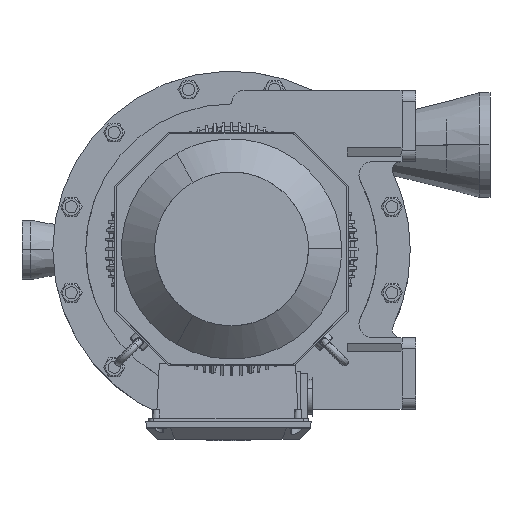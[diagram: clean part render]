
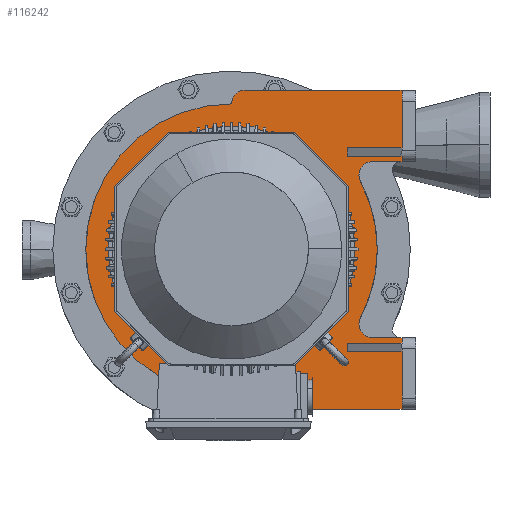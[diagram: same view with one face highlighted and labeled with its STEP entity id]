
A CAD part, top view. The second image highlights one B-rep face of the part: STEP entity #116242.
In plain terms, the highlighted planar face has unit normal (0, 0, 1).
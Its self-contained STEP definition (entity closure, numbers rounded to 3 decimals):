
#115315=CARTESIAN_POINT('',(231.661,135.,273.0));
#115316=VERTEX_POINT('',#115315);
#115332=CARTESIAN_POINT('',(256.661,160.,273.0));
#115333=VERTEX_POINT('',#115332);
#115340=CARTESIAN_POINT('',(256.661,135.,273.0));
#115341=DIRECTION('',(0.0,0.0,1.0));
#115342=DIRECTION('',(1.0,0.0,0.0));
#115343=AXIS2_PLACEMENT_3D('',#115340,#115341,#115342);
#115344=CIRCLE('',#115343,25.0);
#115345=EDGE_CURVE('',#115333,#115316,#115344,.T.);
#115355=CARTESIAN_POINT('',(265.0,0.,273.0));
#115356=VERTEX_POINT('',#115355);
#115365=CARTESIAN_POINT('',(234.535,-123.362,273.0));
#115366=VERTEX_POINT('',#115365);
#115367=CARTESIAN_POINT('',(0.0,0.0,273.0));
#115368=DIRECTION('',(0.0,0.0,-1.0));
#115369=DIRECTION('',(1.0,0.0,0.0));
#115370=AXIS2_PLACEMENT_3D('',#115367,#115368,#115369);
#115371=CIRCLE('',#115370,265.0);
#115372=EDGE_CURVE('',#115356,#115366,#115371,.T.);
#115416=CARTESIAN_POINT('',(231.661,-135.,273.0));
#115417=VERTEX_POINT('',#115416);
#115432=CARTESIAN_POINT('',(256.661,-135.,273.0));
#115433=DIRECTION('',(0.0,0.0,1.0));
#115434=DIRECTION('',(1.0,0.0,0.0));
#115435=AXIS2_PLACEMENT_3D('',#115432,#115433,#115434);
#115436=CIRCLE('',#115435,25.0);
#115437=EDGE_CURVE('',#115366,#115417,#115436,.T.);
#115449=CARTESIAN_POINT('',(-265.0,0.,273.0));
#115450=VERTEX_POINT('',#115449);
#115517=CARTESIAN_POINT('',(0.,-265.0,273.0));
#115518=VERTEX_POINT('',#115517);
#115525=CARTESIAN_POINT('',(0.0,0.0,273.0));
#115526=DIRECTION('',(0.0,0.0,-1.0));
#115527=DIRECTION('',(1.0,0.0,0.0));
#115528=AXIS2_PLACEMENT_3D('',#115525,#115526,#115527);
#115529=CIRCLE('',#115528,265.0);
#115530=EDGE_CURVE('',#115518,#115450,#115529,.T.);
#115542=CARTESIAN_POINT('',(150.0,0.0,273.0));
#115543=VERTEX_POINT('',#115542);
#115559=CARTESIAN_POINT('',(-150.0,0.,273.0));
#115560=VERTEX_POINT('',#115559);
#115567=CARTESIAN_POINT('',(0.0,0.0,273.));
#115568=DIRECTION('',(0.0,0.0,-1.0));
#115569=DIRECTION('',(1.0,0.0,0.0));
#115570=AXIS2_PLACEMENT_3D('',#115567,#115568,#115569);
#115571=CIRCLE('',#115570,150.0);
#115572=EDGE_CURVE('',#115543,#115560,#115571,.T.);
#115940=CARTESIAN_POINT('',(210.0,170.,273.));
#115941=VERTEX_POINT('',#115940);
#115948=CARTESIAN_POINT('',(310.0,170.,273.));
#115949=VERTEX_POINT('',#115948);
#115950=CARTESIAN_POINT('',(310.0,170.,273.));
#115951=DIRECTION('',(-1.0,0.0,0.0));
#115952=VECTOR('',#115951,100.0);
#115953=LINE('',#115950,#115952);
#115954=EDGE_CURVE('',#115949,#115941,#115953,.T.);
#115980=CARTESIAN_POINT('',(310.0,-170.,273.));
#115981=VERTEX_POINT('',#115980);
#115988=CARTESIAN_POINT('',(210.0,-170.,273.));
#115989=VERTEX_POINT('',#115988);
#115990=CARTESIAN_POINT('',(210.0,-170.,273.));
#115991=DIRECTION('',(1.0,0.0,0.0));
#115992=VECTOR('',#115991,100.0);
#115993=LINE('',#115990,#115992);
#115994=EDGE_CURVE('',#115989,#115981,#115993,.T.);
#116027=CARTESIAN_POINT('',(210.0,185.,273.));
#116028=VERTEX_POINT('',#116027);
#116035=CARTESIAN_POINT('',(210.0,170.,273.));
#116036=DIRECTION('',(0.0,1.0,0.0));
#116037=VECTOR('',#116036,15.);
#116038=LINE('',#116035,#116037);
#116039=EDGE_CURVE('',#115941,#116028,#116038,.T.);
#116050=CARTESIAN_POINT('',(310.0,185.,273.));
#116051=VERTEX_POINT('',#116050);
#116052=CARTESIAN_POINT('',(210.0,185.,273.));
#116053=DIRECTION('',(1.0,0.0,0.0));
#116054=VECTOR('',#116053,100.0);
#116055=LINE('',#116052,#116054);
#116056=EDGE_CURVE('',#116028,#116051,#116055,.T.);
#116074=CARTESIAN_POINT('',(310.0,160.,273.));
#116075=VERTEX_POINT('',#116074);
#116076=CARTESIAN_POINT('',(310.0,160.,273.));
#116077=DIRECTION('',(0.0,1.0,0.0));
#116078=VECTOR('',#116077,10.);
#116079=LINE('',#116076,#116078);
#116080=EDGE_CURVE('',#116075,#115949,#116079,.T.);
#116100=CARTESIAN_POINT('',(90.43,0.,273.));
#116101=DIRECTION('',(0.0,0.0,1.0));
#116102=DIRECTION('',(1.0,0.0,0.0));
#116103=AXIS2_PLACEMENT_3D('',#116100,#116101,#116102);
#116104=PLANE('',#116103);
#116105=ORIENTED_EDGE('',*,*,#115954,.T.);
#116106=ORIENTED_EDGE('',*,*,#116039,.T.);
#116107=ORIENTED_EDGE('',*,*,#116056,.T.);
#116108=CARTESIAN_POINT('',(310.0,290.0,273.));
#116109=VERTEX_POINT('',#116108);
#116110=CARTESIAN_POINT('',(310.0,185.,273.));
#116111=DIRECTION('',(0.0,1.0,0.0));
#116112=VECTOR('',#116111,105.);
#116113=LINE('',#116110,#116112);
#116114=EDGE_CURVE('',#116051,#116109,#116113,.T.);
#116115=ORIENTED_EDGE('',*,*,#116114,.T.);
#116116=CARTESIAN_POINT('',(25.,290.0,273.0));
#116117=VERTEX_POINT('',#116116);
#116118=CARTESIAN_POINT('',(25.,290.0,273.0));
#116119=DIRECTION('',(1.0,0.0,0.0));
#116120=VECTOR('',#116119,285.0);
#116121=LINE('',#116118,#116120);
#116122=EDGE_CURVE('',#116117,#116109,#116121,.T.);
#116123=ORIENTED_EDGE('',*,*,#116122,.F.);
#116124=CARTESIAN_POINT('',(0.,265.0,273.0));
#116125=VERTEX_POINT('',#116124);
#116126=CARTESIAN_POINT('',(25.,265.0,273.0));
#116127=DIRECTION('',(0.0,0.0,-1.0));
#116128=DIRECTION('',(1.0,0.0,0.0));
#116129=AXIS2_PLACEMENT_3D('',#116126,#116127,#116128);
#116130=CIRCLE('',#116129,25.0);
#116131=EDGE_CURVE('',#116125,#116117,#116130,.T.);
#116132=ORIENTED_EDGE('',*,*,#116131,.F.);
#116133=CARTESIAN_POINT('',(0.0,0.0,273.0));
#116134=DIRECTION('',(0.0,0.0,-1.0));
#116135=DIRECTION('',(1.0,0.0,0.0));
#116136=AXIS2_PLACEMENT_3D('',#116133,#116134,#116135);
#116137=CIRCLE('',#116136,265.0);
#116138=EDGE_CURVE('',#115450,#116125,#116137,.T.);
#116139=ORIENTED_EDGE('',*,*,#116138,.F.);
#116140=ORIENTED_EDGE('',*,*,#115530,.F.);
#116141=CARTESIAN_POINT('',(25.,-290.0,273.0));
#116142=VERTEX_POINT('',#116141);
#116143=CARTESIAN_POINT('',(25.,-265.0,273.0));
#116144=DIRECTION('',(0.0,0.0,-1.0));
#116145=DIRECTION('',(1.0,0.0,0.0));
#116146=AXIS2_PLACEMENT_3D('',#116143,#116144,#116145);
#116147=CIRCLE('',#116146,25.0);
#116148=EDGE_CURVE('',#116142,#115518,#116147,.T.);
#116149=ORIENTED_EDGE('',*,*,#116148,.F.);
#116150=CARTESIAN_POINT('',(310.0,-290.0,273.));
#116151=VERTEX_POINT('',#116150);
#116152=CARTESIAN_POINT('',(310.0,-290.0,273.));
#116153=DIRECTION('',(-1.0,0.0,0.0));
#116154=VECTOR('',#116153,285.0);
#116155=LINE('',#116152,#116154);
#116156=EDGE_CURVE('',#116151,#116142,#116155,.T.);
#116157=ORIENTED_EDGE('',*,*,#116156,.F.);
#116158=CARTESIAN_POINT('',(310.0,-185.,273.));
#116159=VERTEX_POINT('',#116158);
#116160=CARTESIAN_POINT('',(310.0,-290.0,273.));
#116161=DIRECTION('',(0.0,1.0,0.0));
#116162=VECTOR('',#116161,105.);
#116163=LINE('',#116160,#116162);
#116164=EDGE_CURVE('',#116151,#116159,#116163,.T.);
#116165=ORIENTED_EDGE('',*,*,#116164,.T.);
#116166=CARTESIAN_POINT('',(210.0,-185.,273.));
#116167=VERTEX_POINT('',#116166);
#116168=CARTESIAN_POINT('',(310.0,-185.,273.));
#116169=DIRECTION('',(-1.0,0.0,0.0));
#116170=VECTOR('',#116169,100.0);
#116171=LINE('',#116168,#116170);
#116172=EDGE_CURVE('',#116159,#116167,#116171,.T.);
#116173=ORIENTED_EDGE('',*,*,#116172,.T.);
#116174=CARTESIAN_POINT('',(210.0,-185.,273.));
#116175=DIRECTION('',(0.0,1.0,0.0));
#116176=VECTOR('',#116175,15.);
#116177=LINE('',#116174,#116176);
#116178=EDGE_CURVE('',#116167,#115989,#116177,.T.);
#116179=ORIENTED_EDGE('',*,*,#116178,.T.);
#116180=ORIENTED_EDGE('',*,*,#115994,.T.);
#116181=CARTESIAN_POINT('',(310.0,-160.0,273.));
#116182=VERTEX_POINT('',#116181);
#116183=CARTESIAN_POINT('',(310.0,-170.,273.));
#116184=DIRECTION('',(0.0,1.0,0.0));
#116185=VECTOR('',#116184,10.);
#116186=LINE('',#116183,#116185);
#116187=EDGE_CURVE('',#115981,#116182,#116186,.T.);
#116188=ORIENTED_EDGE('',*,*,#116187,.T.);
#116189=CARTESIAN_POINT('',(256.661,-160.,273.0));
#116190=VERTEX_POINT('',#116189);
#116191=CARTESIAN_POINT('',(256.661,-160.,273.0));
#116192=DIRECTION('',(1.0,0.0,0.0));
#116193=VECTOR('',#116192,53.339);
#116194=LINE('',#116191,#116193);
#116195=EDGE_CURVE('',#116190,#116182,#116194,.T.);
#116196=ORIENTED_EDGE('',*,*,#116195,.F.);
#116197=CARTESIAN_POINT('',(256.661,-135.,273.0));
#116198=DIRECTION('',(0.0,0.0,1.0));
#116199=DIRECTION('',(1.0,0.0,0.0));
#116200=AXIS2_PLACEMENT_3D('',#116197,#116198,#116199);
#116201=CIRCLE('',#116200,25.0);
#116202=EDGE_CURVE('',#115417,#116190,#116201,.T.);
#116203=ORIENTED_EDGE('',*,*,#116202,.F.);
#116204=ORIENTED_EDGE('',*,*,#115437,.F.);
#116205=ORIENTED_EDGE('',*,*,#115372,.F.);
#116206=CARTESIAN_POINT('',(234.535,123.362,273.0));
#116207=VERTEX_POINT('',#116206);
#116208=CARTESIAN_POINT('',(0.0,0.0,273.0));
#116209=DIRECTION('',(0.0,0.0,-1.0));
#116210=DIRECTION('',(1.0,0.0,0.0));
#116211=AXIS2_PLACEMENT_3D('',#116208,#116209,#116210);
#116212=CIRCLE('',#116211,265.0);
#116213=EDGE_CURVE('',#116207,#115356,#116212,.T.);
#116214=ORIENTED_EDGE('',*,*,#116213,.F.);
#116215=CARTESIAN_POINT('',(256.661,135.,273.0));
#116216=DIRECTION('',(0.0,0.0,1.0));
#116217=DIRECTION('',(1.0,0.0,0.0));
#116218=AXIS2_PLACEMENT_3D('',#116215,#116216,#116217);
#116219=CIRCLE('',#116218,25.0);
#116220=EDGE_CURVE('',#115316,#116207,#116219,.T.);
#116221=ORIENTED_EDGE('',*,*,#116220,.F.);
#116222=ORIENTED_EDGE('',*,*,#115345,.F.);
#116223=CARTESIAN_POINT('',(310.0,160.,273.));
#116224=DIRECTION('',(-1.0,0.0,0.0));
#116225=VECTOR('',#116224,53.339);
#116226=LINE('',#116223,#116225);
#116227=EDGE_CURVE('',#116075,#115333,#116226,.T.);
#116228=ORIENTED_EDGE('',*,*,#116227,.F.);
#116229=ORIENTED_EDGE('',*,*,#116080,.T.);
#116230=EDGE_LOOP('',(#116105,#116106,#116107,#116115,#116123,#116132,#116139,#116140,#116149,#116157,#116165,#116173,#116179,#116180,#116188,#116196,#116203,#116204,#116205,#116214,#116221,#116222,#116228,#116229));
#116231=FACE_OUTER_BOUND('',#116230,.T.);
#116232=ORIENTED_EDGE('',*,*,#115572,.T.);
#116233=CARTESIAN_POINT('',(0.0,0.0,273.));
#116234=DIRECTION('',(0.0,0.0,-1.0));
#116235=DIRECTION('',(1.0,0.0,0.0));
#116236=AXIS2_PLACEMENT_3D('',#116233,#116234,#116235);
#116237=CIRCLE('',#116236,150.0);
#116238=EDGE_CURVE('',#115560,#115543,#116237,.T.);
#116239=ORIENTED_EDGE('',*,*,#116238,.T.);
#116240=EDGE_LOOP('',(#116232,#116239));
#116241=FACE_BOUND('',#116240,.T.);
#116242=ADVANCED_FACE('',(#116231,#116241),#116104,.T.);
